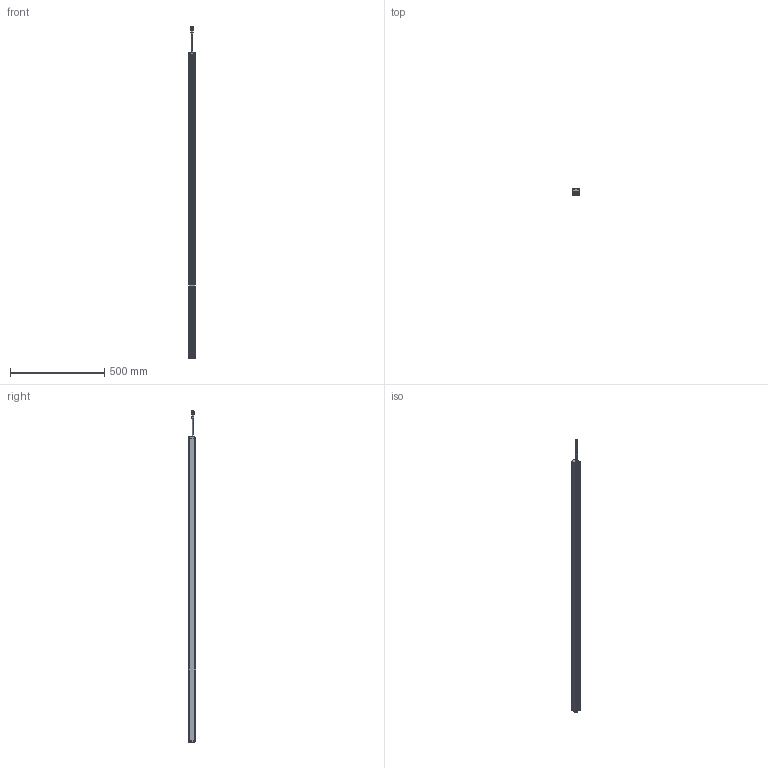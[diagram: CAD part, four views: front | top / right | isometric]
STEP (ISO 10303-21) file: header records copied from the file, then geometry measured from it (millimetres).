
FILE_DESCRIPTION((''),'2;1');
FILE_NAME('PRT0040','2026-03-31T14:06:52',('Administrator'),(''),'CREO PARAMETRIC BY PTC INC, 2016510','CREO PARAMETRIC BY PTC INC, 2016510','');
FILE_SCHEMA(('AUTOMOTIVE_DESIGN { 1 0 10303 214 1 1 1 1 }'));
Length unit declared in the file: millimetre
Products named in the file (1): PRT0040
Bounding box: 33 x 38 x 1761.9 mm (x, y, z)
Surface area: 350816 mm2 (no closed solid volume)
Topology: 0 solids, 12 shells, 794 faces, 2090 edges, 1323 vertices
Faces by surface type: plane 384, cylinder 227, extrusion 85, torus 34, sphere 32, cone 28, bspline 4
Entity records: 31163 total; most frequent: CARTESIAN_POINT 5874, ORIENTED_EDGE 4092, DIRECTION 3867, EDGE_CURVE 2046, VERTEX_POINT 1323, AXIS2_PLACEMENT_3D 1307, VECTOR 1253, LINE 1168
